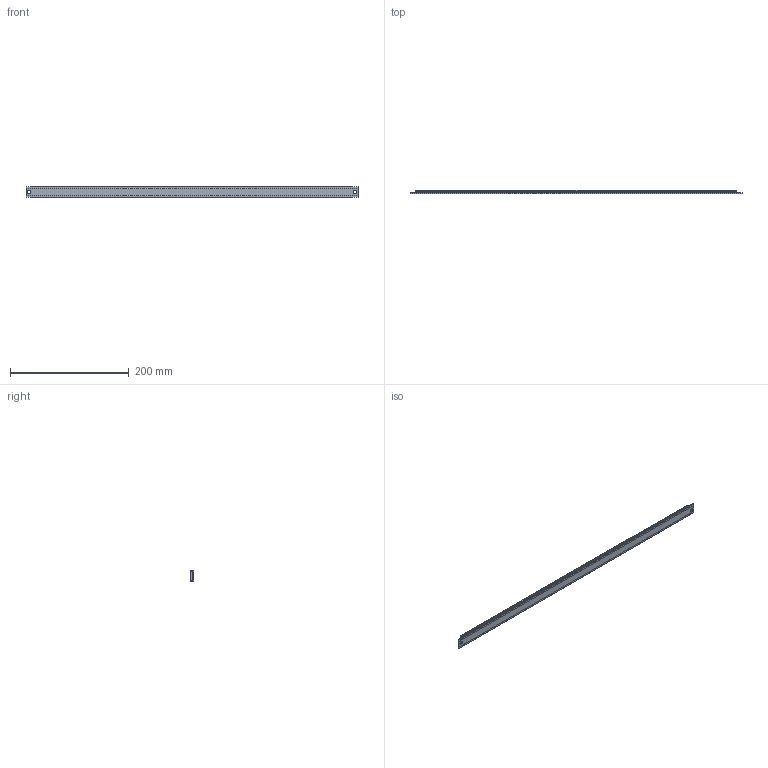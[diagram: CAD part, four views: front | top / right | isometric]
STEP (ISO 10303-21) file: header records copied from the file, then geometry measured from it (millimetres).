
FILE_DESCRIPTION (( 'STEP AP214' ), '1' );
FILE_NAME ('SAScale_exposed.ScaleLneght560.STEP', '2026-03-10T09:11:33', ( '' ), ( '' ), 'SwSTEP 2.0', 'SolidWorks 2024', '' );
FILE_SCHEMA (( 'AUTOMOTIVE_DESIGN' ));
Length unit declared in the file: millimetre
Products named in the file (1): SAScale_exposed.ScaleLneght560
Bounding box: 560 x 6 x 18 mm (x, y, z)
Volume: 54653.8 mm3; surface area: 47600.2 mm2
Topology: 2 solids, 2 shells, 52 faces, 141 edges, 94 vertices
Faces by surface type: plane 37, cylinder 15
Entity records: 2247 total; most frequent: CARTESIAN_POINT 288, ORIENTED_EDGE 282, DIRECTION 277, EDGE_CURVE 141, VECTOR 111, LINE 111, VERTEX_POINT 94, AXIS2_PLACEMENT_3D 83
